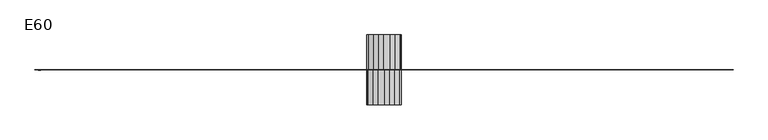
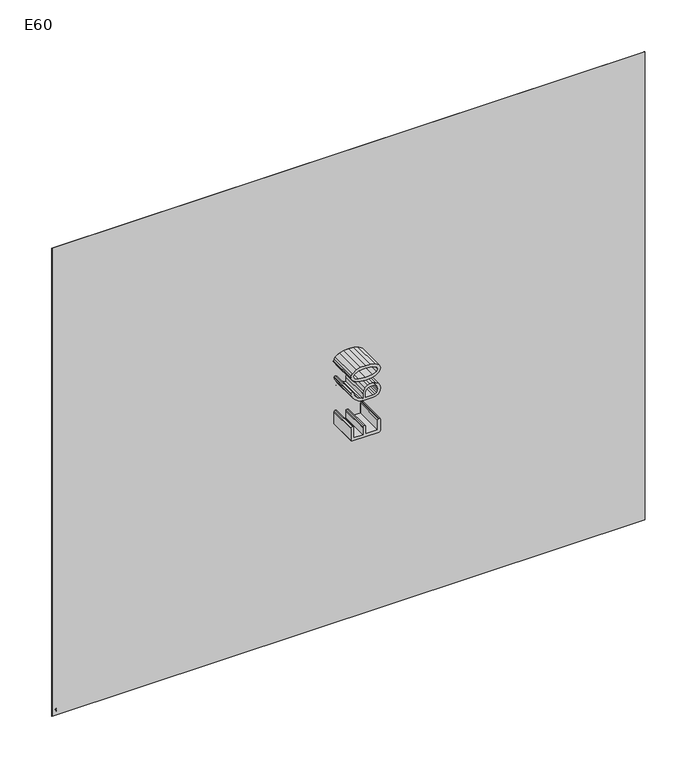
"""IFC4 building model written with IfcOpenShell, lengths in millimetres: proxy geometry, Fire_FireCompartmentationE : E60."""

from ifc_helpers import new_model, si_unit, point, frame, frame_2d, origin, origin_with_axes, place, context, project, spatial, polyline, circle_curve, trimmed, segment, composite_curve, outline, extrude, source, transform, mapped, element, save


def e60_daea4a7d(model_context):
    return source(origin(), model_context, "Body", "SweptSolid", [
        extrude(outline(polyline([(3000.0, -0.5), (0.0, -0.5), (0.0, 0.5), (3000.0, 0.5), (3000.0, -0.5)])), origin_with_axes(), (0.0, 0.0, 1.0), 2500.0),
        extrude(outline(composite_curve([segment(trimmed(circle_curve(frame_2d((28.9488523, 20.9372462)), 4.3000253), [point((27.7936078, 25.0791815))], [point((29.724042, 25.1668205))], False, "CARTESIAN"), True, "CONTINUOUS"), segment(trimmed(circle_curve(frame_2d((29.6833004, 19.2917407)), 5.875221), [point((29.724042, 25.1668205))], [point((32.6283278, 24.3755421))], False, "CARTESIAN"), True, "CONTINUOUS"), segment(trimmed(circle_curve(frame_2d((32.8576867, 20.8662932)), 3.5167361), [point((32.6283278, 24.3755421))], [point((30.6249304, 23.5833197))], True, "CARTESIAN"), True, "CONTINUOUS"), segment(trimmed(circle_curve(frame_2d((10.876956, 53.8348059)), 36.1266511), [point((30.6249304, 23.5833197))], [point((25.8949704, 20.9776277))], False, "CARTESIAN"), True, "CONTINUOUS"), segment(trimmed(circle_curve(frame_2d((21.9041848, 33.757735)), 13.3887083), [point((25.8949704, 20.9776277))], [point((22.6832699, 20.3917132))], False, "CARTESIAN"), True, "CONTINUOUS"), segment(trimmed(circle_curve(frame_2d((20.9508608, 39.8789486)), 19.5640891), [point((22.6832699, 20.3917132))], [point((20.0109811, 20.3374489))], False, "CARTESIAN"), True, "CONTINUOUS"), segment(trimmed(circle_curve(frame_2d((18.2722891, 30.1747881)), 9.9898094), [point((20.0109811, 20.3374489))], [point((25.2489423, 23.0247809))], True, "CARTESIAN"), True, "CONTINUOUS"), segment(trimmed(circle_curve(frame_2d((30.9774835, 18.5323372)), 7.2799887), [point((25.2489423, 23.0247809))], [point((27.7936078, 25.0791815))], False, "CARTESIAN"), True, "CONTINUOUS")], self_intersect=False)), frame((0.0, -0.6, 0.0), z_axis=(0.0, 1.0, 0.0), x_axis=(0.0, 0.0, 1.0)), (0.0, 0.0, 1.0), 1.2),
        extrude(outline(composite_curve([segment(trimmed(circle_curve(frame_2d((34.8553456, 17.4656787)), 4.3823741), [point((35.4675373, 21.8050824))], [point((32.7666638, 21.3182897))], True, "CARTESIAN"), True, "CONTINUOUS"), segment(trimmed(circle_curve(frame_2d((31.0348418, 25.2412811)), 4.2882478), [point((32.7666638, 21.3182897))], [point((31.0556823, 20.9530839))], False, "CARTESIAN"), True, "CONTINUOUS"), segment(trimmed(circle_curve(frame_2d((30.8661112, 26.3534755)), 5.4037178), [point((31.0556823, 20.9530839))], [point((28.4262544, 21.5319337))], False, "CARTESIAN"), True, "CONTINUOUS"), segment(trimmed(circle_curve(frame_2d((28.9867579, 26.8058524)), 5.3036197), [point((28.4262544, 21.5319337))], [point((30.6443727, 21.7679267))], True, "CARTESIAN"), True, "CONTINUOUS"), segment(trimmed(circle_curve(frame_2d((33.7648144, 18.2895153)), 4.6729544), [point((30.6443727, 21.7679267))], [point((32.5632515, 22.8053485))], False, "CARTESIAN"), True, "CONTINUOUS"), segment(trimmed(circle_curve(frame_2d((33.1708117, 19.8529583)), 3.0142556), [point((32.5632515, 22.8053485))], [point((35.4675373, 21.8050824))], False, "CARTESIAN"), True, "CONTINUOUS")], self_intersect=False)), frame((0.0, -0.6, 0.0), z_axis=(0.0, 1.0, 0.0), x_axis=(0.0, 0.0, 1.0)), (0.0, 0.0, 1.0), 1.2),
        extrude(outline(composite_curve([segment(trimmed(circle_curve(frame_2d((26.35828, 17.8501973)), 2.1465167), [point((27.6612009, 19.5560492))], [point((26.6135063, 19.9814864))], True, "CARTESIAN"), True, "CONTINUOUS"), segment(trimmed(circle_curve(frame_2d((25.771558, 13.6747037)), 6.3627341), [point((26.6135063, 19.9814864))], [point((25.1811141, 20.0099828))], True, "CARTESIAN"), True, "CONTINUOUS"), segment(trimmed(circle_curve(frame_2d((27.6708438, 15.0485986)), 5.5510437), [point((25.1811141, 20.0099828))], [point((27.8117089, 20.5978547))], False, "CARTESIAN"), True, "CONTINUOUS"), segment(trimmed(circle_curve(frame_2d((27.9681735, 17.2267436)), 3.3747401), [point((27.8117089, 20.5978547))], [point((29.507487, 20.2299728))], False, "CARTESIAN"), True, "CONTINUOUS"), segment(trimmed(circle_curve(frame_2d((31.5381431, 23.6896238)), 4.0115769), [point((29.507487, 20.2299728))], [point((32.2223971, 19.7368341))], True, "CARTESIAN"), True, "CONTINUOUS"), segment(trimmed(circle_curve(frame_2d((29.9256715, 21.6889582)), 3.0142556), [point((32.2223971, 19.7368341))], [point((29.3181113, 18.736568))], False, "CARTESIAN"), True, "CONTINUOUS"), segment(trimmed(circle_curve(frame_2d((30.5170043, 23.2454076)), 4.6655095), [point((29.3181113, 18.736568))], [point((27.6612009, 19.5560492))], False, "CARTESIAN"), True, "CONTINUOUS")], self_intersect=False)), frame((0.0, -0.6, 0.0), z_axis=(0.0, 1.0, 0.0), x_axis=(0.0, 0.0, 1.0)), (0.0, 0.0, 1.0), 1.2),
        extrude(outline(composite_curve([segment(trimmed(circle_curve(frame_2d((32.8467056, 19.4711557)), 3.5167361), [point((30.6139493, 16.7541292))], [point((32.6173467, 15.9619068))], True, "CARTESIAN"), True, "CONTINUOUS"), segment(trimmed(circle_curve(frame_2d((29.6723193, 21.0457082)), 5.875221), [point((32.6173467, 15.9619068))], [point((29.7130609, 15.1706284))], False, "CARTESIAN"), True, "CONTINUOUS"), segment(trimmed(circle_curve(frame_2d((28.9378712, 19.4002026)), 4.3000253), [point((29.7130609, 15.1706284))], [point((27.7826267, 15.2582674))], False, "CARTESIAN"), True, "CONTINUOUS"), segment(trimmed(circle_curve(frame_2d((30.9665024, 21.8051117)), 7.2799887), [point((27.7826267, 15.2582674))], [point((25.2379612, 17.312668))], False, "CARTESIAN"), True, "CONTINUOUS"), segment(trimmed(circle_curve(frame_2d((18.261308, 10.1626608)), 9.9898094), [point((25.2379612, 17.312668))], [point((20.0, 20.0))], True, "CARTESIAN"), True, "CONTINUOUS"), segment(trimmed(circle_curve(frame_2d((20.9398797, 0.4585003)), 19.5640891), [point((20.0, 20.0))], [point((22.6722888, 19.9457357))], False, "CARTESIAN"), True, "CONTINUOUS"), segment(trimmed(circle_curve(frame_2d((21.8932037, 6.5797139)), 13.3887083), [point((22.6722888, 19.9457357))], [point((25.8839893, 19.3598212))], False, "CARTESIAN"), True, "CONTINUOUS"), segment(trimmed(circle_curve(frame_2d((10.8659749, -13.497357)), 36.1266511), [point((25.8839893, 19.3598212))], [point((30.6139493, 16.7541292))], False, "CARTESIAN"), True, "CONTINUOUS")], self_intersect=False)), frame((0.0, -0.6, 0.0), z_axis=(0.0, 1.0, 0.0), x_axis=(0.0, 0.0, 1.0)), (0.0, 0.0, 1.0), 1.2),
        extrude(outline(polyline([(1060.3805069, 1432.4519024), (1060.3805069, 1566.9452739), (1062.1761461, 1572.5342008), (1067.5630635, 1574.3971764), (1127.2680648, 1574.3971764), (1132.8906599, 1572.6015372), (1134.7648582, 1567.2146198), (1132.8906599, 1561.8277024), (1127.2680648, 1560.0320633), (1074.74562, 1560.0320633), (1074.74562, 1514.0637013), (1112.274478, 1514.0637013), (1117.8970731, 1512.2680622), (1119.7712714, 1506.8811447), (1117.8970731, 1501.4942273), (1112.274478, 1499.6985882), (1074.74562, 1499.6985882), (1074.74562, 1439.3651131), (1127.2680648, 1439.3651131), (1132.8906599, 1437.569474), (1134.7648582, 1432.1825566), (1132.8906599, 1426.7956391), (1127.2680648, 1425.0), (1067.5630635, 1425.0), (1062.1761461, 1426.8629756), (1060.3805069, 1432.4519024)])), frame((0.0, 0.0, 0.0), z_axis=(0.0, 1.0, 0.0), x_axis=(0.0, 0.0, 1.0)), (0.0, 0.0, 1.0), 150.0),
        extrude(outline(polyline([(1311.0517307, 1574.3971764), (1316.9773399, 1572.5117553), (1318.9525429, 1566.855492), (1314.8225729, 1560.3463001), (1297.6181054, 1553.2086345), (1282.7255233, 1540.2351418), (1274.1401237, 1527.4075447), (1270.1111584, 1514.0637013), (1293.4544672, 1514.0637013), (1308.9867457, 1511.3646312), (1321.8255656, 1503.267421), (1330.4446334, 1491.2871411), (1333.3176561, 1476.9388621), (1333.3176561, 1462.1248392), (1330.483913, 1447.7765602), (1321.982684, 1435.7962803), (1309.4524896, 1427.6990701), (1294.5318506, 1425.0), (1279.555098, 1427.7046815), (1267.0361263, 1435.8187258), (1258.5685655, 1447.8046171), (1255.7460452, 1462.1248392), (1255.7460452, 1507.1504906), (1260.2014749, 1530.953932), (1273.5677637, 1551.6374503), (1288.101218, 1564.3303744), (1303.8691742, 1572.6913192), (1311.0517307, 1574.3971764)]), holes=[polyline([(1270.1111584, 1499.6985882), (1270.1111584, 1461.9901663), (1271.884352, 1453.2420368), (1277.203933, 1445.9416415), (1285.0822997, 1441.0092452), (1294.5318506, 1439.3651131), (1303.9814016, 1441.0204679), (1311.8597683, 1445.9865324), (1317.1793493, 1453.2981506), (1318.9525429, 1461.9901663), (1318.9525429, 1477.073535), (1317.1625152, 1485.8216645), (1311.7924319, 1493.1220598), (1303.897231, 1498.0544561), (1294.5318506, 1499.6985882), (1270.1111584, 1499.6985882)])]), frame((0.0, 0.0, 0.0), z_axis=(0.0, 1.0, 0.0), x_axis=(0.0, 0.0, 1.0)), (0.0, 0.0, 1.0), 150.0),
        extrude(outline(polyline([(1439.6194931, 1499.6985882), (1437.9136359, 1474.7953179), (1432.7960644, 1453.5057713), (1419.8225716, 1432.1264428), (1411.0800535, 1426.7816107), (1400.8336877, 1425.0), (1390.5873218, 1426.7759993), (1381.8448038, 1432.1039973), (1368.871311, 1453.4159894), (1363.7537395, 1474.7055359), (1362.0478823, 1499.6985882), (1363.7537395, 1524.6916405), (1368.871311, 1545.981187), (1381.8448038, 1567.293179), (1390.5873218, 1572.621177), (1400.8336877, 1574.3971764), (1411.0800535, 1572.6155657), (1419.8225716, 1567.2707335), (1432.7960644, 1545.891405), (1437.9136359, 1524.6018585), (1439.6194931, 1499.6985882)]), holes=[polyline([(1425.25438, 1499.6985882), (1420.944846, 1535.0277882), (1412.640015, 1553.7809945), (1400.8336877, 1560.0320633), (1389.128365, 1553.7473263), (1380.8572023, 1534.8931153), (1376.4129954, 1499.6985882), (1380.7225293, 1464.3693881), (1389.0273603, 1445.6161819), (1400.8336877, 1439.3651131), (1412.640015, 1445.6161819), (1420.944846, 1464.3693881), (1425.25438, 1499.6985882)])]), frame((0.0, 0.0, 0.0), z_axis=(0.0, 1.0, 0.0), x_axis=(0.0, 0.0, 1.0)), (0.0, 0.0, 1.0), 150.0),
        extrude(outline(polyline([(1060.3805069, 1567.5480976), (1062.1761461, 1573.1370244), (1067.5630635, 1575.0), (1127.2680648, 1575.0), (1132.8906599, 1573.2043609), (1134.7648582, 1567.8174434), (1132.8906599, 1562.430526), (1127.2680648, 1560.6348869), (1074.74562, 1560.6348869), (1074.74562, 1500.3014118), (1112.274478, 1500.3014118), (1117.8970731, 1498.5057727), (1119.7712714, 1493.1188553), (1117.8970731, 1487.7319378), (1112.274478, 1485.9362987), (1074.74562, 1485.9362987), (1074.74562, 1439.9679367), (1127.2680648, 1439.9679367), (1132.8906599, 1438.1722976), (1134.7648582, 1432.7853802), (1132.8906599, 1427.3984628), (1127.2680648, 1425.6028236), (1067.5630635, 1425.6028236), (1062.1761461, 1427.4657992), (1060.3805069, 1433.0547261), (1060.3805069, 1567.5480976)])), frame((0.0, -150.0, 0.0), z_axis=(0.0, 1.0, 0.0), x_axis=(0.0, 0.0, 1.0)), (0.0, 0.0, 1.0), 150.0),
        extrude(outline(polyline([(1311.0517307, 1425.6028236), (1303.8691742, 1427.3086808), (1288.101218, 1435.6696256), (1273.5677637, 1448.3625497), (1260.2014749, 1469.046068), (1255.7460452, 1492.8495094), (1255.7460452, 1537.8751608), (1258.5685655, 1552.1953829), (1267.0361263, 1564.1812742), (1279.555098, 1572.2953185), (1294.5318506, 1575.0), (1309.4524896, 1572.3009299), (1321.982684, 1564.2037197), (1330.483913, 1552.2234398), (1333.3176561, 1537.8751608), (1333.3176561, 1523.0611379), (1330.4446334, 1508.7128589), (1321.8255656, 1496.732579), (1308.9867457, 1488.6353688), (1293.4544672, 1485.9362987), (1270.1111584, 1485.9362987), (1274.1401237, 1472.5924553), (1282.7255233, 1459.7648582), (1297.6181054, 1446.7913655), (1314.8225729, 1439.6536999), (1318.9525429, 1433.144508), (1316.9773399, 1427.4882447), (1311.0517307, 1425.6028236)]), holes=[polyline([(1270.1111584, 1500.3014118), (1294.5318506, 1500.3014118), (1303.897231, 1501.9455439), (1311.7924319, 1506.8779402), (1317.1625152, 1514.1783355), (1318.9525429, 1522.926465), (1318.9525429, 1538.0098337), (1317.1793493, 1546.7018494), (1311.8597683, 1554.0134676), (1303.9814016, 1558.9795321), (1294.5318506, 1560.6348869), (1285.0822997, 1558.9907548), (1277.203933, 1554.0583585), (1271.884352, 1546.7579632), (1270.1111584, 1538.0098337), (1270.1111584, 1500.3014118)])]), frame((0.0, -150.0, 0.0), z_axis=(0.0, 1.0, 0.0), x_axis=(0.0, 0.0, 1.0)), (0.0, 0.0, 1.0), 150.0),
        extrude(outline(polyline([(1439.6194931, 1500.3014118), (1437.9136359, 1475.3981415), (1432.7960644, 1454.108595), (1419.8225716, 1432.7292665), (1411.0800535, 1427.3844343), (1400.8336877, 1425.6028236), (1390.5873218, 1427.378823), (1381.8448038, 1432.706821), (1368.871311, 1454.018813), (1363.7537395, 1475.3083595), (1362.0478823, 1500.3014118), (1363.7537395, 1525.2944641), (1368.871311, 1546.5840106), (1381.8448038, 1567.8960027), (1390.5873218, 1573.2240007), (1400.8336877, 1575.0), (1411.0800535, 1573.2183893), (1419.8225716, 1567.8735572), (1432.7960644, 1546.4942287), (1437.9136359, 1525.2046821), (1439.6194931, 1500.3014118)]), holes=[polyline([(1425.25438, 1500.3014118), (1420.944846, 1535.6306119), (1412.640015, 1554.3838181), (1400.8336877, 1560.6348869), (1389.0273603, 1554.3838181), (1380.7225293, 1535.6306119), (1376.4129954, 1500.3014118), (1380.8572023, 1465.1068847), (1389.128365, 1446.2526737), (1400.8336877, 1439.9679367), (1412.640015, 1446.2190055), (1420.944846, 1464.9722118), (1425.25438, 1500.3014118)])]), frame((0.0, -150.0, 0.0), z_axis=(0.0, 1.0, 0.0), x_axis=(0.0, 0.0, 1.0)), (0.0, 0.0, 1.0), 150.0),
    ])


if __name__ == "__main__":
    model = new_model("IFC4")
    model_context = context("Model", 3, world=origin())
    ifc_project = project(units=[si_unit("LENGTHUNIT", "METRE", prefix="MILLI")], contexts=[model_context])
    site = spatial("IfcSite", under=ifc_project)
    building = spatial("IfcBuilding", under=site)
    placement = place(None, origin())
    e60_shape = e60_daea4a7d(model_context)
    element("IfcBuildingElementProxy", 1, Name="Fire_FireCompartmentationE : E60", ObjectType="Fire_FireCompartmentationE : E60", at=placement, inside=building, context=model_context, shape_type="MappedRepresentation", body=[
        mapped(e60_shape, transform((0.0, 0.0, 0.0), x_axis=(1.0, 0.0, 0.0), y_axis=(0.0, 1.0, 0.0), z_axis=(0.0, 0.0, 1.0))),
    ])
    save(model, "model.ifc")
